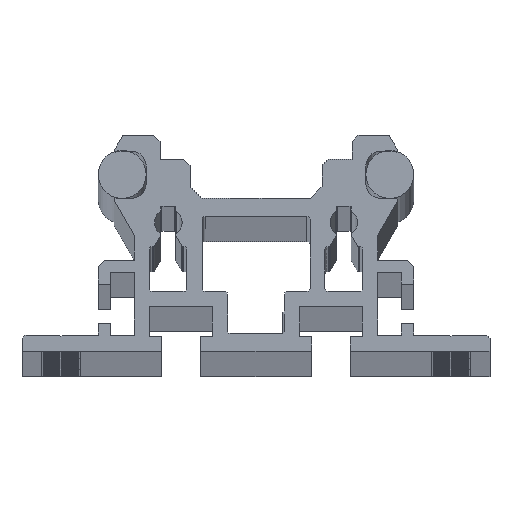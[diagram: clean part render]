
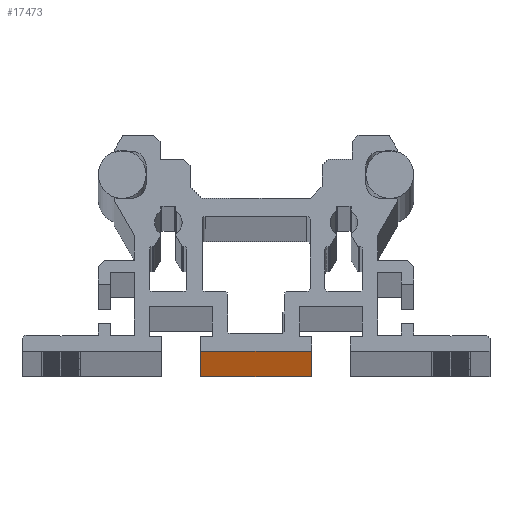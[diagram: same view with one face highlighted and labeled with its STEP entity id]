
A CAD part, top view. The second image highlights one B-rep face of the part: STEP entity #17473.
In plain terms, the highlighted planar face has unit normal (0, -1, 0).
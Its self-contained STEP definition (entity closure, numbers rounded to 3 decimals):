
#8030 = PLANE ( 'NONE',  #8092 ) ;
#8031 = FACE_OUTER_BOUND ( 'NONE', #17474, .T. ) ;
#8075 = DIRECTION ( 'NONE',  ( 1., 0., 0. ) ) ;
#8076 = VECTOR ( 'NONE', #8075, 1000. ) ;
#8077 = CARTESIAN_POINT ( 'NONE',  ( -9.25, 0., -1198. ) ) ;
#8078 = LINE ( 'NONE', #8077, #8076 ) ;
#8079 = CARTESIAN_POINT ( 'NONE',  ( -9.25, 0., -1198. ) ) ;
#8080 = DIRECTION ( 'NONE',  ( 0., 0., 1. ) ) ;
#8081 = VECTOR ( 'NONE', #8080, 1000. ) ;
#8082 = CARTESIAN_POINT ( 'NONE',  ( -9.25, 0., -1198. ) ) ;
#8083 = LINE ( 'NONE', #8082, #8081 ) ;
#8084 = CARTESIAN_POINT ( 'NONE',  ( -9.25, 0., 1198. ) ) ;
#8085 = DIRECTION ( 'NONE',  ( 1., 0., 0. ) ) ;
#8086 = VECTOR ( 'NONE', #8085, 1000. ) ;
#8087 = CARTESIAN_POINT ( 'NONE',  ( -9.25, 0., 1198. ) ) ;
#8088 = LINE ( 'NONE', #8087, #8086 ) ;
#8089 = DIRECTION ( 'NONE',  ( 0., 0., -1. ) ) ;
#8090 = DIRECTION ( 'NONE',  ( 0., -1., 0. ) ) ;
#8091 = CARTESIAN_POINT ( 'NONE',  ( -9.25, 0., -1198. ) ) ;
#8092 = AXIS2_PLACEMENT_3D ( 'NONE', #8091, #8090, #8089 ) ;
#8114 = CARTESIAN_POINT ( 'NONE',  ( 9.25, 0., -1198. ) ) ;
#8115 = DIRECTION ( 'NONE',  ( 0., 0., 1. ) ) ;
#8116 = VECTOR ( 'NONE', #8115, 1000. ) ;
#8117 = CARTESIAN_POINT ( 'NONE',  ( 9.25, 0., -1198. ) ) ;
#8118 = LINE ( 'NONE', #8117, #8116 ) ;
#8119 = CARTESIAN_POINT ( 'NONE',  ( 9.25, 0., 1198. ) ) ;
#17473 = ADVANCED_FACE ( 'NONE', ( #8031 ), #8030, .T. ) ;
#17474 = EDGE_LOOP ( 'NONE', ( #17475, #17478, #17481, #17483 ) ) ;
#17475 = ORIENTED_EDGE ( 'NONE', *, *, #17476, .F. ) ;
#17476 = EDGE_CURVE ( 'NONE', #17477, #17494, #8088, .T. ) ;
#17477 = VERTEX_POINT ( 'NONE', #8084 ) ;
#17478 = ORIENTED_EDGE ( 'NONE', *, *, #17479, .F. ) ;
#17479 = EDGE_CURVE ( 'NONE', #17480, #17477, #8083, .T. ) ;
#17480 = VERTEX_POINT ( 'NONE', #8079 ) ;
#17481 = ORIENTED_EDGE ( 'NONE', *, *, #17482, .T. ) ;
#17482 = EDGE_CURVE ( 'NONE', #17480, #17497, #8078, .T. ) ;
#17483 = ORIENTED_EDGE ( 'NONE', *, *, #17496, .T. ) ;
#17494 = VERTEX_POINT ( 'NONE', #8119 ) ;
#17496 = EDGE_CURVE ( 'NONE', #17497, #17494, #8118, .T. ) ;
#17497 = VERTEX_POINT ( 'NONE', #8114 ) ;
